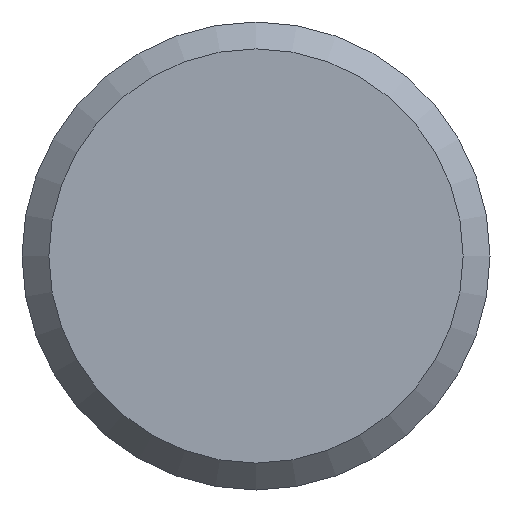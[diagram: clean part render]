
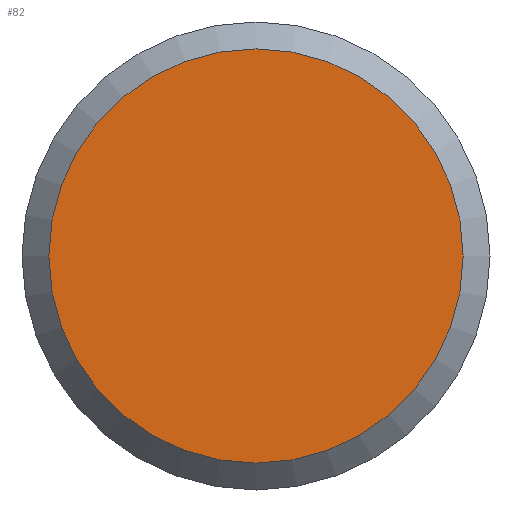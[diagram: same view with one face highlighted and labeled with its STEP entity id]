
A CAD part, front view. The second image highlights one B-rep face of the part: STEP entity #82.
In plain terms, the highlighted planar face has unit normal (0, -1, 0).
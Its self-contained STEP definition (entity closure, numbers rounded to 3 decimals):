
#82 = ADVANCED_FACE( '', ( #113 ), #114, .F. );
#113 = FACE_OUTER_BOUND( '', #157, .T. );
#114 = PLANE( '', #158 );
#157 = EDGE_LOOP( '', ( #226 ) );
#158 = AXIS2_PLACEMENT_3D( '', #227, #228, #229 );
#226 = ORIENTED_EDGE( '', *, *, #329, .T. );
#227 = CARTESIAN_POINT( '', ( 7.08, 0., 0. ) );
#228 = DIRECTION( '', ( 0., 1., 0. ) );
#229 = DIRECTION( '', ( 0., 0., 1. ) );
#329 = EDGE_CURVE( '', #381, #381, #382, .T. );
#381 = VERTEX_POINT( '', #451 );
#382 = CIRCLE( '', #452, 7.08 );
#451 = CARTESIAN_POINT( '', ( 0., 0., -7.08 ) );
#452 = AXIS2_PLACEMENT_3D( '', #517, #518, #519 );
#517 = CARTESIAN_POINT( '', ( 0., 0., 0. ) );
#518 = DIRECTION( '', ( 0., -1., 0. ) );
#519 = DIRECTION( '', ( 0., 0., -1. ) );
